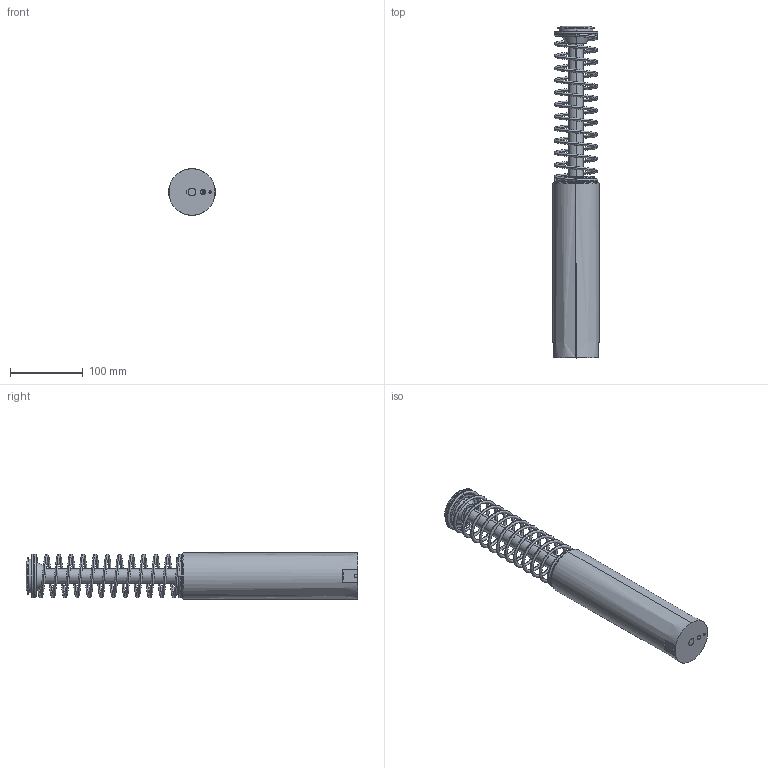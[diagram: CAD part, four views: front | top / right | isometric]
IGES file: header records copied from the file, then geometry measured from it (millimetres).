
Start section: SolidWorks IGES file using analytic representation for surfaces
Bounding box: 64 x 456 x 64 mm (x, y, z)
Surface area: 117029.1 mm2 (no closed solid volume)
Topology: 0 solids, 0 shells, 94 faces, 2224 edges, 2224 vertices
Faces by surface type: revolution 56, bspline 38
